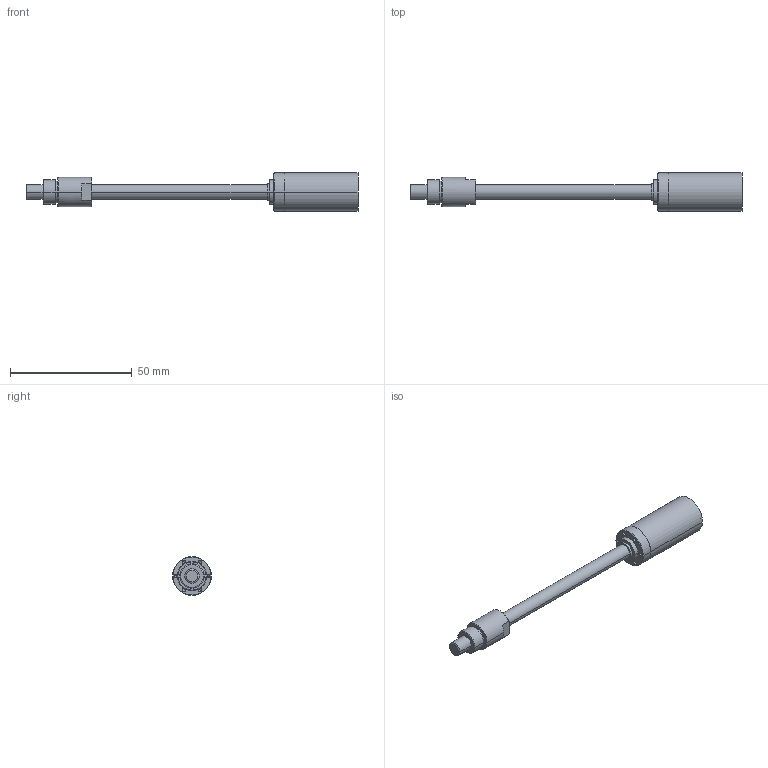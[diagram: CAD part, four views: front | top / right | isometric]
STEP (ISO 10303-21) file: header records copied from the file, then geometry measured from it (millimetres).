
FILE_DESCRIPTION((''),'2;1');
FILE_NAME('424235_GP16S_M-4ST','2016-10-05T',('mmagpetk'),(''),'CREO PARAMETRIC BY PTC INC, 2016050','CREO PARAMETRIC BY PTC INC, 2016050','');
FILE_SCHEMA(('CONFIG_CONTROL_DESIGN'));
Length unit declared in the file: millimetre
Products named in the file (1): 424235_GP16S_M-4ST
Bounding box: 136.6 x 16 x 16 mm (x, y, z)
Volume: 10812.8 mm3; surface area: 5302.8 mm2
Topology: 1 solids, 1 shells, 95 faces, 206 edges, 122 vertices
Faces by surface type: cylinder 44, cone 28, plane 21, torus 2
Entity records: 4360 total; most frequent: CARTESIAN_POINT 523, DIRECTION 484, ORIENTED_EDGE 388, PRESENTATION_STYLE_ASSIGNMENT 282, AXIS2_PLACEMENT_3D 203, STYLED_ITEM 195, CURVE_STYLE 194, EDGE_CURVE 194
